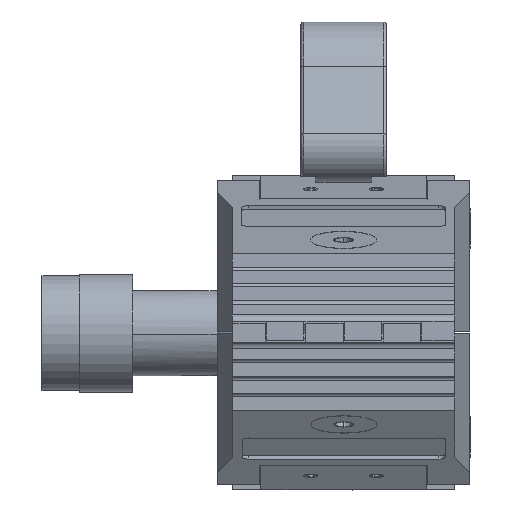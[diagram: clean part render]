
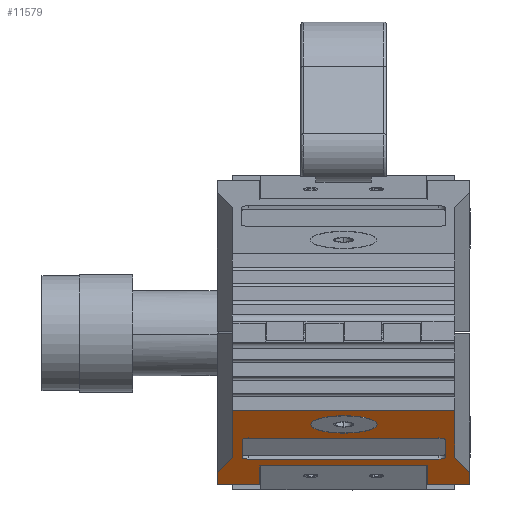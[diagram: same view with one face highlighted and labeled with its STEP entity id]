
A CAD part, top view. The second image highlights one B-rep face of the part: STEP entity #11579.
In plain terms, the highlighted planar face has unit normal (0, -0.967, 0.256).
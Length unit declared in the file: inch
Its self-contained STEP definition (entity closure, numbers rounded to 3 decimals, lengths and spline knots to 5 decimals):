
#584=DIRECTION('',(0.,0.256,0.967));
#585=VECTOR('',#584,2.13143);
#586=CARTESIAN_POINT('',(-1.29724,-1.47462,
0.52976));
#587=LINE('',#586,#585);
#764=DIRECTION('',(0.,-0.256,-0.967));
#765=VECTOR('',#764,2.13143);
#766=CARTESIAN_POINT('',(1.30118,-0.92912,2.59021));
#767=LINE('',#766,#765);
#905=DIRECTION('',(0.,-0.256,-0.967));
#906=VECTOR('',#905,0.56631);
#907=CARTESIAN_POINT('',(1.47835,-1.64981,
-0.13195));
#908=LINE('',#907,#906);
#942=DIRECTION('',(1.,0.,0.));
#943=VECTOR('',#942,0.49213);
#944=CARTESIAN_POINT('',(-1.47441,-1.79474,
-0.6794));
#945=LINE('',#944,#943);
#946=DIRECTION('',(-1.,0.,0.));
#947=VECTOR('',#946,2.59843);
#948=CARTESIAN_POINT('',(1.30118,-0.92912,2.59021));
#949=LINE('',#948,#947);
#950=DIRECTION('',(-0.251,0.248,0.936));
#951=VECTOR('',#950,0.70707);
#952=CARTESIAN_POINT('',(1.47835,-1.64981,
-0.13195));
#953=LINE('',#952,#951);
#954=DIRECTION('',(1.,0.,0.));
#955=VECTOR('',#954,0.49213);
#956=CARTESIAN_POINT('',(0.98622,-1.79474,
-0.6794));
#957=LINE('',#956,#955);
#958=DIRECTION('',(0.,-0.256,-0.967));
#959=VECTOR('',#958,0.8545);
#960=CARTESIAN_POINT('',(0.98622,-1.57605,
0.14664));
#961=LINE('',#960,#959);
#962=CARTESIAN_POINT('',(1.11418,-1.47529,0.52723));
#963=DIRECTION('',(0.,0.967,-0.256));
#964=DIRECTION('',(1.,0.,0.));
#965=AXIS2_PLACEMENT_3D('',#962,#963,#964);
#967=CARTESIAN_POINT('',(1.11417,-1.27377,1.2884));
#968=DIRECTION('',(0.,0.967,-0.256));
#969=DIRECTION('',(0.,0.256,0.967));
#970=AXIS2_PLACEMENT_3D('',#967,#968,#969);
#972=CARTESIAN_POINT('',(-1.11024,-1.27377,1.2884));
#973=DIRECTION('',(0.,0.967,-0.256));
#974=DIRECTION('',(-1.,0.,0.));
#975=AXIS2_PLACEMENT_3D('',#972,#973,#974);
#977=CARTESIAN_POINT('',(-1.11023,-1.47529,
0.52722));
#978=DIRECTION('',(0.,0.967,-0.256));
#979=DIRECTION('',(0.,-0.256,-0.967));
#980=AXIS2_PLACEMENT_3D('',#977,#978,#979);
#982=CARTESIAN_POINT('',(0.00197,-1.0922,1.97423));
#983=DIRECTION('',(0.,0.967,-0.256));
#984=DIRECTION('',(0.,-0.256,-0.967));
#985=AXIS2_PLACEMENT_3D('',#982,#983,#984);
#987=CARTESIAN_POINT('',(0.00197,-1.0922,1.97423));
#988=DIRECTION('',(0.,0.967,-0.256));
#989=DIRECTION('',(0.,0.256,0.967));
#990=AXIS2_PLACEMENT_3D('',#987,#988,#989);
#992=DIRECTION('',(-1.,0.,0.));
#993=VECTOR('',#992,1.9685);
#994=CARTESIAN_POINT('',(0.98622,-1.57605,
0.14664));
#995=LINE('',#994,#993);
#1004=DIRECTION('',(0.,-0.256,-0.967));
#1005=VECTOR('',#1004,0.8545);
#1006=CARTESIAN_POINT('',(-0.98228,-1.57605,
0.14664));
#1007=LINE('',#1006,#1005);
#1101=DIRECTION('',(0.251,0.248,0.936));
#1102=VECTOR('',#1101,0.70707);
#1103=CARTESIAN_POINT('',(-1.47441,-1.64981,
-0.13195));
#1104=LINE('',#1103,#1102);
#1109=DIRECTION('',(0.,0.256,0.967));
#1110=VECTOR('',#1109,0.56631);
#1111=CARTESIAN_POINT('',(-1.47441,-1.79474,
-0.6794));
#1112=LINE('',#1111,#1110);
#8152=DIRECTION('',(-1.,0.,0.));
#8153=VECTOR('',#8152,2.22441);
#8154=CARTESIAN_POINT('',(1.11418,-1.49544,
0.45111));
#8155=LINE('',#8154,#8153);
#8172=DIRECTION('',(0.,0.256,0.967));
#8173=VECTOR('',#8172,0.7874);
#8174=CARTESIAN_POINT('',(-1.18897,-1.47529,
0.52722));
#8175=LINE('',#8174,#8173);
#8184=DIRECTION('',(1.,0.,0.));
#8185=VECTOR('',#8184,2.22441);
#8186=CARTESIAN_POINT('',(-1.11024,-1.25362,
1.36451));
#8187=LINE('',#8186,#8185);
#8200=DIRECTION('',(0.,-0.256,-0.967));
#8201=VECTOR('',#8200,0.7874);
#8202=CARTESIAN_POINT('',(1.19291,-1.27377,1.2884));
#8203=LINE('',#8202,#8201);
#9077=CARTESIAN_POINT('',(1.47835,-1.64981,
-0.13195));
#9078=CARTESIAN_POINT('',(1.47835,-1.79474,
-0.6794));
#9079=VERTEX_POINT('',#9077);
#9080=VERTEX_POINT('',#9078);
#9100=CARTESIAN_POINT('',(0.98622,-1.79474,
-0.6794));
#9102=VERTEX_POINT('',#9100);
#9109=CARTESIAN_POINT('',(0.98622,-1.57605,
0.14664));
#9110=VERTEX_POINT('',#9109);
#9126=CARTESIAN_POINT('',(-1.47441,-1.79474,
-0.6794));
#9128=VERTEX_POINT('',#9126);
#9133=CARTESIAN_POINT('',(-1.47441,-1.64981,
-0.13195));
#9134=VERTEX_POINT('',#9133);
#9147=CARTESIAN_POINT('',(-0.98228,-1.57605,
0.14664));
#9148=CARTESIAN_POINT('',(-0.98228,-1.79474,
-0.6794));
#9149=VERTEX_POINT('',#9147);
#9150=VERTEX_POINT('',#9148);
#9223=CARTESIAN_POINT('',(1.30118,-1.47462,
0.52976));
#9224=VERTEX_POINT('',#9223);
#9225=CARTESIAN_POINT('',(1.30118,-0.92912,
2.59021));
#9226=VERTEX_POINT('',#9225);
#9267=CARTESIAN_POINT('',(-1.29724,-0.92912,
2.59021));
#9268=VERTEX_POINT('',#9267);
#9269=CARTESIAN_POINT('',(-1.29724,-1.47462,
0.52976));
#9270=VERTEX_POINT('',#9269);
#9273=CARTESIAN_POINT('',(1.19292,-1.47529,
0.52723));
#9274=CARTESIAN_POINT('',(1.11418,-1.49544,
0.45111));
#9275=VERTEX_POINT('',#9273);
#9276=VERTEX_POINT('',#9274);
#9277=CARTESIAN_POINT('',(1.19291,-1.27377,1.2884));
#9278=VERTEX_POINT('',#9277);
#9279=CARTESIAN_POINT('',(1.11417,-1.25362,1.36452));
#9280=VERTEX_POINT('',#9279);
#9281=CARTESIAN_POINT('',(-1.11024,-1.25362,
1.36451));
#9282=VERTEX_POINT('',#9281);
#9283=CARTESIAN_POINT('',(-1.18898,-1.27377,
1.28839));
#9284=VERTEX_POINT('',#9283);
#9285=CARTESIAN_POINT('',(-1.18897,-1.47529,
0.52722));
#9286=VERTEX_POINT('',#9285);
#9287=CARTESIAN_POINT('',(-1.11023,-1.49545,
0.4511));
#9288=VERTEX_POINT('',#9287);
#10101=CARTESIAN_POINT('',(0.00197,-1.19195,
1.59745));
#10102=CARTESIAN_POINT('',(0.00197,-0.99245,
2.35102));
#10103=VERTEX_POINT('',#10101);
#10104=VERTEX_POINT('',#10102);
#11529=CARTESIAN_POINT('',(0.00197,-1.36193,
0.9554));
#11530=DIRECTION('',(0.,0.967,-0.256));
#11531=DIRECTION('',(-1.,0.,0.));
#11532=AXIS2_PLACEMENT_3D('',#11529,#11530,#11531);
#11533=PLANE('',#11532);
#11535=ORIENTED_EDGE('',*,*,#11534,.T.);
#11537=ORIENTED_EDGE('',*,*,#11536,.T.);
#11539=ORIENTED_EDGE('',*,*,#11538,.F.);
#11541=ORIENTED_EDGE('',*,*,#11540,.T.);
#11543=ORIENTED_EDGE('',*,*,#11542,.T.);
#11544=ORIENTED_EDGE('',*,*,#11104,.T.);
#11546=ORIENTED_EDGE('',*,*,#11545,.F.);
#11547=ORIENTED_EDGE('',*,*,#11356,.T.);
#11549=ORIENTED_EDGE('',*,*,#11548,.F.);
#11550=ORIENTED_EDGE('',*,*,#11495,.T.);
#11551=ORIENTED_EDGE('',*,*,#11485,.F.);
#11552=ORIENTED_EDGE('',*,*,#11438,.F.);
#11553=EDGE_LOOP('',(#11535,#11537,#11539,#11541,#11543,#11544,#11546,#11547,
#11549,#11550,#11551,#11552));
#11554=FACE_OUTER_BOUND('',#11553,.F.);
#11556=ORIENTED_EDGE('',*,*,#11555,.F.);
#11558=ORIENTED_EDGE('',*,*,#11557,.F.);
#11560=ORIENTED_EDGE('',*,*,#11559,.F.);
#11562=ORIENTED_EDGE('',*,*,#11561,.F.);
#11564=ORIENTED_EDGE('',*,*,#11563,.F.);
#11566=ORIENTED_EDGE('',*,*,#11565,.F.);
#11568=ORIENTED_EDGE('',*,*,#11567,.F.);
#11570=ORIENTED_EDGE('',*,*,#11569,.F.);
#11571=EDGE_LOOP('',(#11556,#11558,#11560,#11562,#11564,#11566,#11568,#11570));
#11572=FACE_BOUND('',#11571,.F.);
#11574=ORIENTED_EDGE('',*,*,#11573,.F.);
#11576=ORIENTED_EDGE('',*,*,#11575,.F.);
#11577=EDGE_LOOP('',(#11574,#11576));
#11578=FACE_BOUND('',#11577,.F.);
#11579=ADVANCED_FACE('',(#11554,#11572,#11578),#11533,.F.);
#966=CIRCLE('',#965,0.07874);
#971=CIRCLE('',#970,0.07874);
#976=CIRCLE('',#975,0.07874);
#981=CIRCLE('',#980,0.07874);
#986=CIRCLE('',#985,0.38976);
#991=CIRCLE('',#990,0.38976);
#11104=EDGE_CURVE('',#9270,#9268,#587,.T.);
#11356=EDGE_CURVE('',#9226,#9224,#767,.T.);
#11438=EDGE_CURVE('',#9110,#9102,#961,.T.);
#11485=EDGE_CURVE('',#9102,#9080,#957,.T.);
#11495=EDGE_CURVE('',#9079,#9080,#908,.T.);
#11534=EDGE_CURVE('',#9110,#9149,#995,.T.);
#11536=EDGE_CURVE('',#9149,#9150,#1007,.T.);
#11538=EDGE_CURVE('',#9128,#9150,#945,.T.);
#11540=EDGE_CURVE('',#9128,#9134,#1112,.T.);
#11542=EDGE_CURVE('',#9134,#9270,#1104,.T.);
#11545=EDGE_CURVE('',#9226,#9268,#949,.T.);
#11548=EDGE_CURVE('',#9079,#9224,#953,.T.);
#11555=EDGE_CURVE('',#9275,#9276,#966,.T.);
#11557=EDGE_CURVE('',#9278,#9275,#8203,.T.);
#11559=EDGE_CURVE('',#9280,#9278,#971,.T.);
#11561=EDGE_CURVE('',#9282,#9280,#8187,.T.);
#11563=EDGE_CURVE('',#9284,#9282,#976,.T.);
#11565=EDGE_CURVE('',#9286,#9284,#8175,.T.);
#11567=EDGE_CURVE('',#9288,#9286,#981,.T.);
#11569=EDGE_CURVE('',#9276,#9288,#8155,.T.);
#11573=EDGE_CURVE('',#10103,#10104,#986,.T.);
#11575=EDGE_CURVE('',#10104,#10103,#991,.T.);
